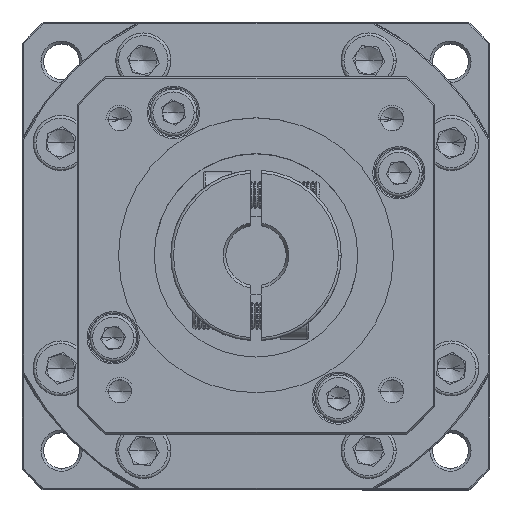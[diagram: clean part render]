
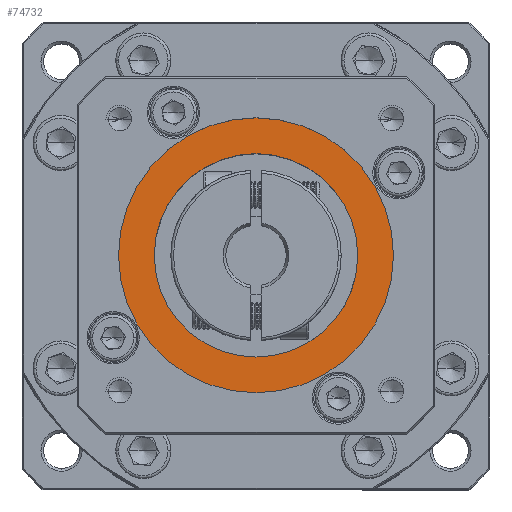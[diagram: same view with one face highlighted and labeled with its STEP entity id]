
A CAD part, top view. The second image highlights one B-rep face of the part: STEP entity #74732.
In plain terms, the highlighted planar face has unit normal (0, 0, 1).
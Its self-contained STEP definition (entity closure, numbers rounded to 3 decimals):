
#3126 = DIRECTION ( 'NONE',  ( 0., 0., 1. ) ) ;
#6402 = DIRECTION ( 'NONE',  ( 1., 0., 0. ) ) ;
#10691 = ORIENTED_EDGE ( 'NONE', *, *, #123440, .T. ) ;
#11536 = CARTESIAN_POINT ( 'NONE',  ( -67.417, 52.772, 13.599 ) ) ;
#18671 = CARTESIAN_POINT ( 'NONE',  ( -42.417, 52.772, 13.599 ) ) ;
#19898 = VERTEX_POINT ( 'NONE', #123875 ) ;
#20925 = EDGE_LOOP ( 'NONE', ( #114256, #58386 ) ) ;
#23146 = AXIS2_PLACEMENT_3D ( 'NONE', #88719, #37927, #6402 ) ;
#23578 = EDGE_CURVE ( 'NONE', #50355, #91188, #76036, .T. ) ;
#25549 = CARTESIAN_POINT ( 'NONE',  ( -67.417, 52.772, 13.599 ) ) ;
#36906 = DIRECTION ( 'NONE',  ( 1., 0., 0. ) ) ;
#37927 = DIRECTION ( 'NONE',  ( 0., 0., -1. ) ) ;
#38249 = DIRECTION ( 'NONE',  ( 1., 0., 0. ) ) ;
#38675 = DIRECTION ( 'NONE',  ( 0., 0., 1. ) ) ;
#39915 = CIRCLE ( 'NONE', #23146, 18.5 ) ;
#42984 = CIRCLE ( 'NONE', #103208, 25. ) ;
#47788 = CARTESIAN_POINT ( 'NONE',  ( -67.417, 52.772, 13.599 ) ) ;
#50355 = VERTEX_POINT ( 'NONE', #18671 ) ;
#51579 = AXIS2_PLACEMENT_3D ( 'NONE', #25549, #3126, #36906 ) ;
#52290 = AXIS2_PLACEMENT_3D ( 'NONE', #96575, #127234, #117090 ) ;
#52961 = DIRECTION ( 'NONE',  ( 0., 0., 1. ) ) ;
#58386 = ORIENTED_EDGE ( 'NONE', *, *, #90995, .T. ) ;
#58827 = CARTESIAN_POINT ( 'NONE',  ( -48.917, 52.772, 13.599 ) ) ;
#65233 = VERTEX_POINT ( 'NONE', #58827 ) ;
#68523 = FACE_BOUND ( 'NONE', #115239, .T. ) ;
#73558 = DIRECTION ( 'NONE',  ( 1., 0., 0. ) ) ;
#74732 = ADVANCED_FACE ( 'NONE', ( #109594, #68523 ), #108302, .T. ) ;
#76036 = CIRCLE ( 'NONE', #101056, 25. ) ;
#82392 = EDGE_CURVE ( 'NONE', #19898, #65233, #39915, .T. ) ;
#85973 = CARTESIAN_POINT ( 'NONE',  ( -92.417, 52.772, 13.599 ) ) ;
#88719 = CARTESIAN_POINT ( 'NONE',  ( -67.417, 52.772, 13.599 ) ) ;
#90995 = EDGE_CURVE ( 'NONE', #91188, #50355, #42984, .T. ) ;
#91188 = VERTEX_POINT ( 'NONE', #85973 ) ;
#96575 = CARTESIAN_POINT ( 'NONE',  ( -67.417, 52.772, 13.599 ) ) ;
#97125 = CIRCLE ( 'NONE', #52290, 18.5 ) ;
#100254 = ORIENTED_EDGE ( 'NONE', *, *, #82392, .T. ) ;
#101056 = AXIS2_PLACEMENT_3D ( 'NONE', #47788, #38675, #38249 ) ;
#103208 = AXIS2_PLACEMENT_3D ( 'NONE', #11536, #52961, #73558 ) ;
#108302 = PLANE ( 'NONE',  #51579 ) ;
#109594 = FACE_OUTER_BOUND ( 'NONE', #20925, .T. ) ;
#114256 = ORIENTED_EDGE ( 'NONE', *, *, #23578, .T. ) ;
#115239 = EDGE_LOOP ( 'NONE', ( #10691, #100254 ) ) ;
#117090 = DIRECTION ( 'NONE',  ( 1., 0., 0. ) ) ;
#123440 = EDGE_CURVE ( 'NONE', #65233, #19898, #97125, .T. ) ;
#123875 = CARTESIAN_POINT ( 'NONE',  ( -85.917, 52.772, 13.599 ) ) ;
#127234 = DIRECTION ( 'NONE',  ( 0., 0., -1. ) ) ;
